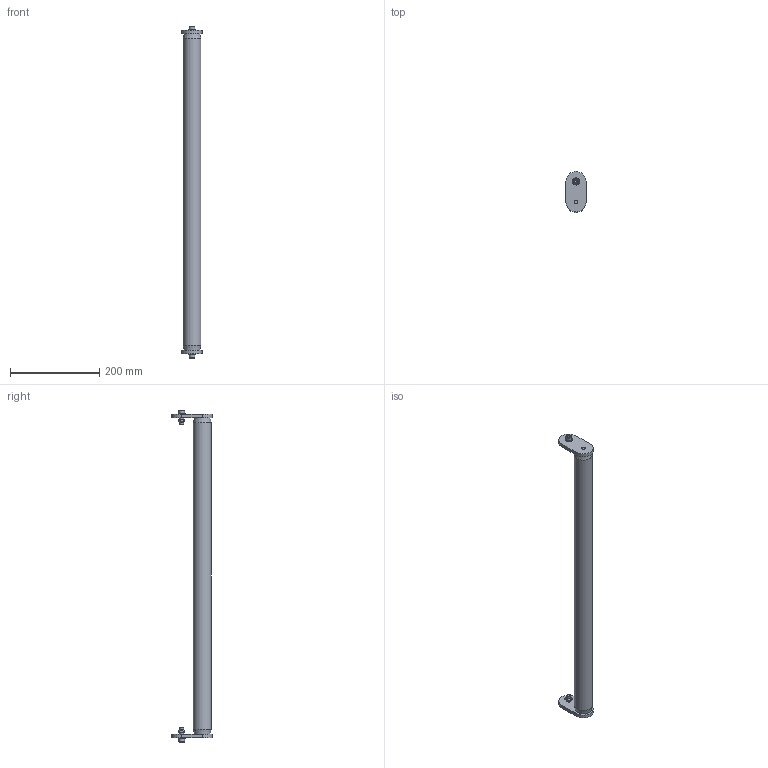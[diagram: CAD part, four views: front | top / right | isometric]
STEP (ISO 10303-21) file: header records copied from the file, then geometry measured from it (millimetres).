
FILE_DESCRIPTION (( 'STEP AP214' ), '1' );
FILE_NAME ('983-004-700.STEP', '2020-11-23T10:25:36', ( '' ), ( '' ), 'SwSTEP 2.0', 'SolidWorks 2020', '' );
FILE_SCHEMA (( 'AUTOMOTIVE_DESIGN' ));
Length unit declared in the file: millimetre
Products named in the file (8): RONDELLE_910-111; 982-010-700; 983-003; 910-011; 983-004-700; 982-009; CHC M8X25 + RP8; CHC THE_910-053H
Assembly tree (8 placements, depth 4):
  983-004-700
    983-003  x2
      982-009
      910-011
      CHC M8X25 + RP8
        CHC THE_910-053H
        RONDELLE_910-111
    982-010-700
Bounding box: 45 x 91 x 745.2 mm (x, y, z)
Volume: 952925.2 mm3; surface area: 114832.8 mm2
Topology: 9 solids, 9 shells, 119 faces, 261 edges, 166 vertices
Faces by surface type: plane 60, cylinder 33, cone 22, torus 4
Full cylindrical faces by diameter (mm): 6 x2, 6.8 x2, 7.98 x2, 8 x4, 8.4 x2, 8.5 x4, 13 x2, 16 x2, 40 x1
Entity records: 2038 total; most frequent: CARTESIAN_POINT 389, DIRECTION 312, ORIENTED_EDGE 228, AXIS2_PLACEMENT_3D 131, EDGE_CURVE 114, EDGE_LOOP 96, VERTEX_POINT 84, FACE_OUTER_BOUND 78
